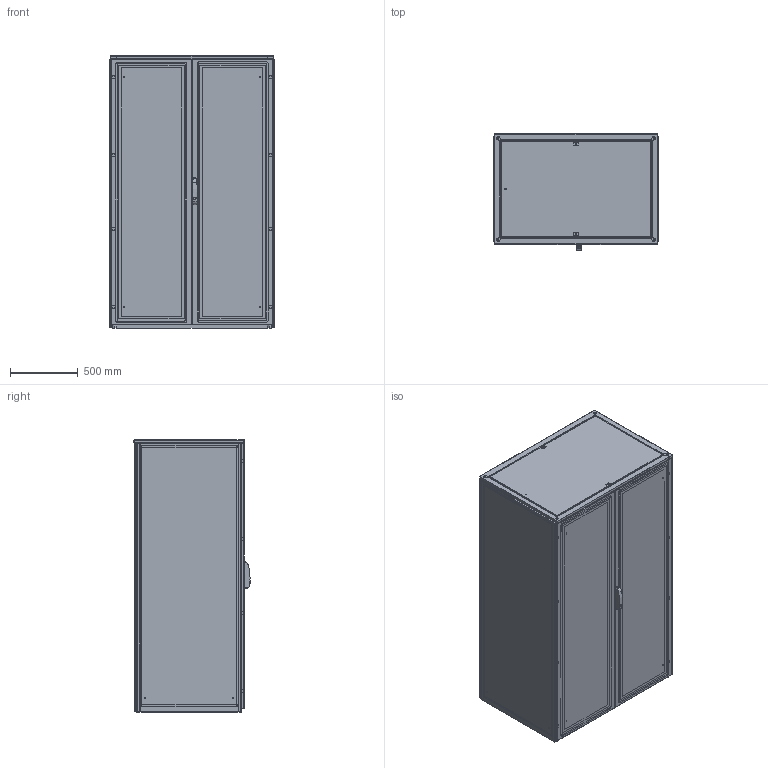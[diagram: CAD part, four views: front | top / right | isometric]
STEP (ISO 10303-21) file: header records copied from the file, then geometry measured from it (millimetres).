
FILE_DESCRIPTION(/* description */ ('STEP AP214'),/* implementation_level */ '2;1');
FILE_NAME(/* name */ 'ENUX122008PR -LOD350',/* time_stamp */ '2025-10-06T09:42:01+02:00',/* author */ ('License CC BY-ND 4.0'),/* organization */ ('CADENAS'),/* preprocessor_version */ 'ST-DEVELOPER v19.3',/* originating_system */ 'PARTsolutions',/* authorisation */ ' ');
FILE_SCHEMA (('AUTOMOTIVE_DESIGN {1 0 10303 214 3 1 1}'));
Length unit declared in the file: millimetre
Products named in the file (11): ENUX122008PR  -LOD350; ENUX122008PR  -LOD3501; ENUX122008PR  -LOD3507; ENUX122008PR  -LOD3502; ENUX122008PR  -LOD35011; ENUX122008PR  -LOD3503; ENUX122008PR  -LOD3508; ENUX122008PR  -LOD3505; ENUX122008PR  -LOD3504; ENUX122008PR  -LOD35010; ENUX122008PR  -LOD3509
Assembly tree (23 placements, depth 2):
  ENUX122008PR  -LOD350
    ENUX122008PR  -LOD3501
    ENUX122008PR  -LOD3507  x2
    ENUX122008PR  -LOD3502
    ENUX122008PR  -LOD35011
    ENUX122008PR  -LOD3503
    ENUX122008PR  -LOD3508
    ENUX122008PR  -LOD3505
    ENUX122008PR  -LOD3504
    ENUX122008PR  -LOD35010  x4
    ENUX122008PR  -LOD3509  x10
Bounding box: 1212 x 857 x 2008.5 mm (x, y, z)
Volume: 33942696.9 mm3; surface area: 28489253.5 mm2
Topology: 23 solids, 30 shells, 1788 faces, 4861 edges, 3188 vertices
Faces by surface type: plane 1098, cylinder 640, torus 30, cone 12, sphere 8
Full cylindrical faces by diameter (mm): 6 x15, 9 x13, 12 x4, 14 x2, 17 x2, 28 x2
Entity records: 36630 total; most frequent: CARTESIAN_POINT 6701, DIRECTION 6223, ORIENTED_EDGE 6118, EDGE_CURVE 3059, AXIS2_PLACEMENT_3D 2077, LINE 2069, VECTOR 2069, VERTEX_POINT 2022
